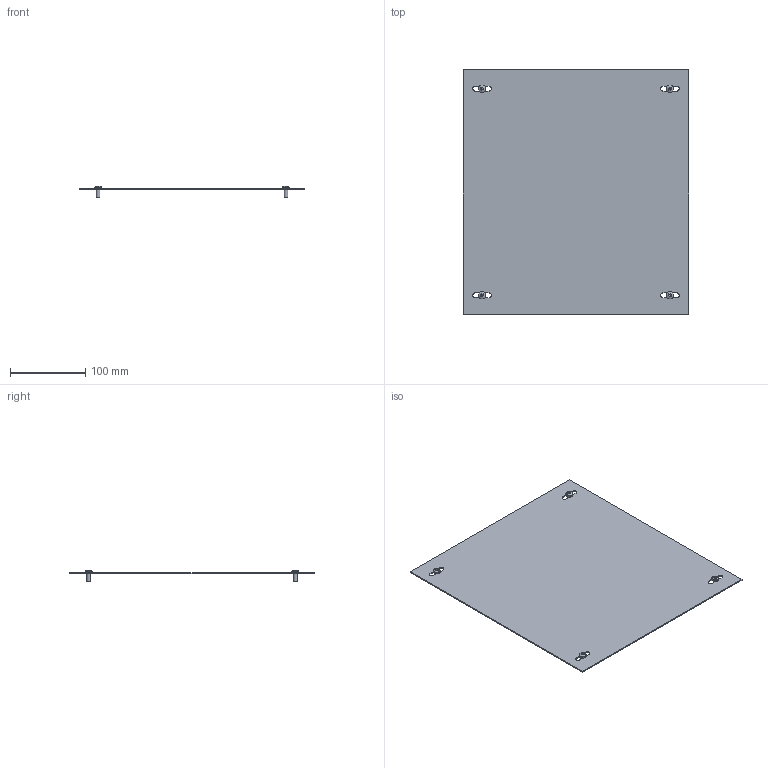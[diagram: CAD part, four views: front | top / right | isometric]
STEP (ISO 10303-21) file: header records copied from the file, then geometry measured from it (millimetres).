
FILE_DESCRIPTION(('Open CASCADE Model'),'2;1');
FILE_NAME('Open CASCADE Shape Model','2025-03-28T17:53:16',('Author'),( 'Open CASCADE'),'Open CASCADE STEP processor 7.8','Open CASCADE 7.8' ,'Unknown');
FILE_SCHEMA(('AUTOMOTIVE_DESIGN { 1 0 10303 214 1 1 1 1 }'));
Length unit declared in the file: millimetre
Products named in the file (3): Compound1; Solid1; Solid2
Assembly tree (5 placements, depth 2):
  Compound1
    Solid1
    Solid2  x4
Bounding box: 300 x 325 x 15.56 mm (x, y, z)
Volume: 147025.7 mm3; surface area: 197692.5 mm2
Topology: 5 solids, 5 shells, 86 faces, 180 edges, 108 vertices
Faces by surface type: plane 46, cylinder 16, torus 8, cone 8, sphere 4, bspline 4
Full cylindrical faces by diameter (mm): 5 x4, 9.5 x4
Entity records: 1508 total; most frequent: CARTESIAN_POINT 562, DIRECTION 190, ORIENTED_EDGE 178, EDGE_CURVE 89, AXIS2_PLACEMENT_3D 73, VERTEX_POINT 57, FACE_BOUND 48, EDGE_LOOP 48
